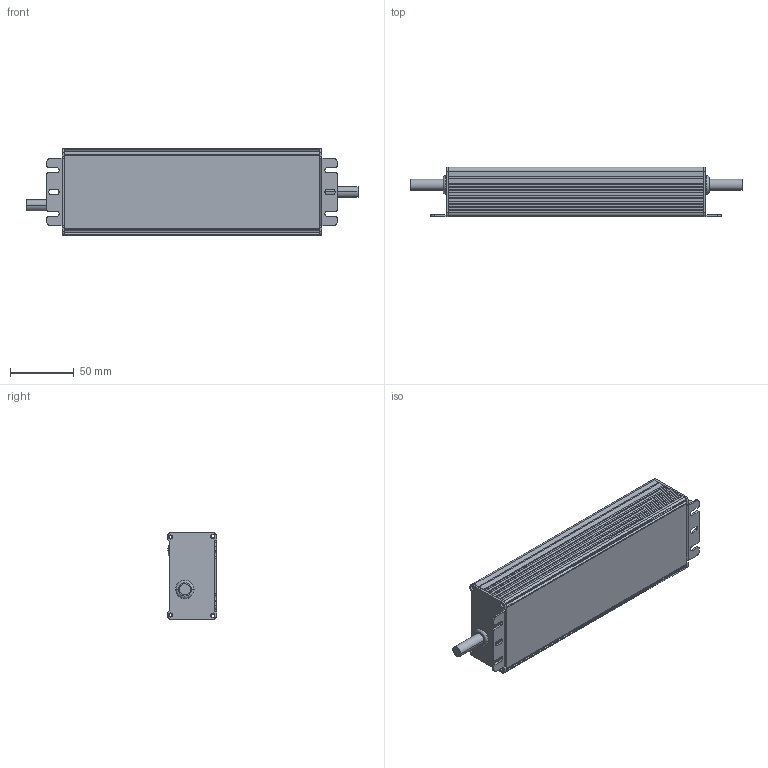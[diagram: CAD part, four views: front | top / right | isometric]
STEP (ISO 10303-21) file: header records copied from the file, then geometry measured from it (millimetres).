
FILE_DESCRIPTION((''),'2;1');
FILE_NAME('HLG-150_ASM','2023-11-01T09:38:42',('shalinice'),(''),'CREO PARAMETRIC BY PTC INC, 2017110','CREO PARAMETRIC BY PTC INC, 2017110','');
FILE_SCHEMA(('AUTOMOTIVE_DESIGN { 1 0 10303 214 1 1 1 1 }'));
Length unit declared in the file: millimetre
Products named in the file (8): 994B-D; 994D-T; 994LR-R; 994A-R; RING1; RING3; VRSAI; HLG-150_ASM
Assembly tree (8 placements, depth 2):
  HLG-150_ASM
    994B-D
    994D-T
    994LR-R
    994A-R
    RING1
    RING3
    VRSAI  x2
Bounding box: 260.8 x 38.8 x 68 mm (x, y, z)
Volume: 98392.2 mm3; surface area: 110556 mm2
Topology: 8 solids, 8 shells, 431 faces, 1129 edges, 732 vertices
Faces by surface type: plane 199, cylinder 156, torus 40, cone 32, sphere 4
Entity records: 15545 total; most frequent: DIRECTION 2207, CARTESIAN_POINT 2113, ORIENTED_EDGE 2042, EDGE_CURVE 1021, AXIS2_PLACEMENT_3D 784, VERTEX_POINT 667, VECTOR 639, LINE 639
